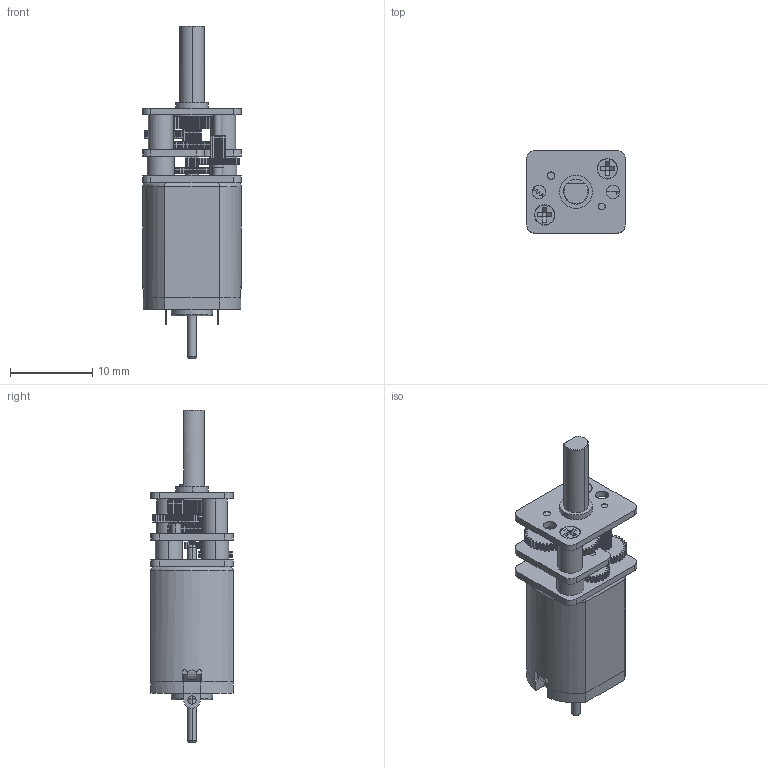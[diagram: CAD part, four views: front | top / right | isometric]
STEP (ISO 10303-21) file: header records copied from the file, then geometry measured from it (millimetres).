
FILE_DESCRIPTION (( 'STEP AP214' ), '1' );
FILE_NAME ('mmgm-carbon-brushes-backshaft-step2.STEP', '2024-04-23T02:41:56', ( '' ), ( '' ), 'SwSTEP 2.0', 'SolidWorks 2023', '' );
FILE_SCHEMA (( 'AUTOMOTIVE_DESIGN' ));
Length unit declared in the file: inch
Products named in the file (1): mmgm-carbon-brushes-backshaft-step2
Bounding box: 12 x 10 x 40.3 mm (x, y, z)
Volume: 2154.9 mm3; surface area: 2216.6 mm2
Topology: 1 solids, 1 shells, 2274 faces, 6848 edges, 4637 vertices
Faces by surface type: cylinder 1228, plane 726, bspline 301, torus 13, cone 6
Entity records: 123308 total; most frequent: CARTESIAN_POINT 40695, ORIENTED_EDGE 13696, DIRECTION 7308, EDGE_CURVE 6848, VERTEX_POINT 4637, B_SPLINE_CURVE_WITH_KNOTS 4409, AXIS2_PLACEMENT_3D 2907, EDGE_LOOP 2377
